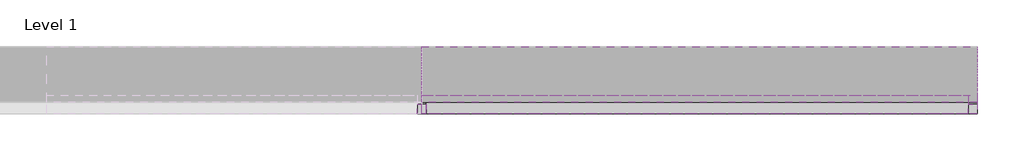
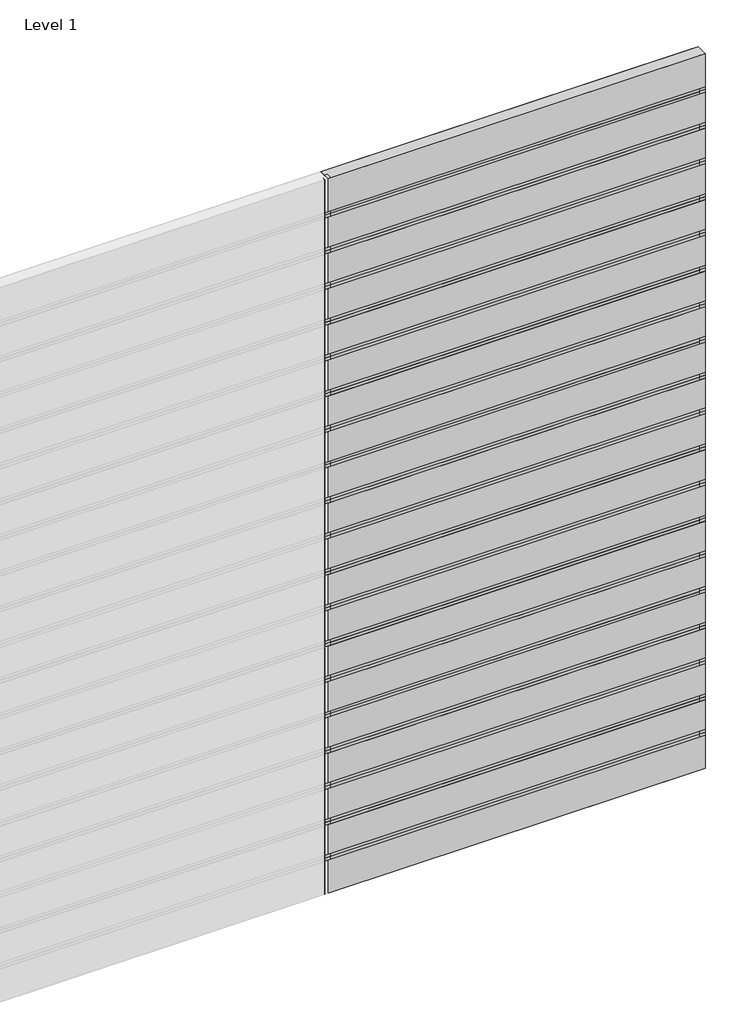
# One storey, part 2 of 2: 49 members, 40 plates.
"""IFC4 building model written with IfcOpenShell, lengths in millimetres."""

from ifc_helpers import new_model, si_unit, origin, place, context, project, spatial, transform, mapped, element, save
from components import rectangular_mullion_489e5dd7, rectangular_mullion_906318ec, rectangular_mullion_d9db7a7c, empty_system_panel_empty_2f02a19b, empty_system_panel_empty_759a0c1d, empty_system_panel_empty_080f249c

model = new_model("IFC4")

# Units and contexts
model_context = context("Model", 3, world=origin())
ifc_project = project(units=[si_unit("LENGTHUNIT", "METRE", prefix="MILLI")], contexts=[model_context])

# Site, building, storey
site = spatial("IfcSite", under=ifc_project)
building = spatial("IfcBuilding", under=site)
storey = spatial("IfcBuildingStorey", under=building, Name="Level 1", Elevation=0.0)

# Members
placement = place(None, origin())
rectangular_mullion_shape = rectangular_mullion_489e5dd7(model_context)
element("IfcMember", 1, ObjectType="Rectangular Mullion : RSen_21_CWM_blade - 300 ellips - 0°_gen_duco projects", at=placement, inside=storey, context=model_context, shape_type="MappedRepresentation", body=[
    mapped(rectangular_mullion_shape, transform((3000.0, 3000.0, 3300.0), x_axis=(0.0, 0.0, 1.0), y_axis=(0.0, 1.0, 0.0), z_axis=(-1.0, 0.0, 0.0))),
])
element("IfcMember", 2, ObjectType="Rectangular Mullion : RSen_21_CWM_blade - 300 ellips - 0°_gen_duco projects", at=placement, inside=storey, context=model_context, shape_type="MappedRepresentation", body=[
    mapped(rectangular_mullion_shape, transform((3000.0, 3000.0, 3600.0), x_axis=(0.0, 0.0, 1.0), y_axis=(0.0, 1.0, 0.0), z_axis=(-1.0, 0.0, 0.0))),
])
element("IfcMember", 3, ObjectType="Rectangular Mullion : RSen_21_CWM_blade - 300 ellips - 0°_gen_duco projects", at=placement, inside=storey, context=model_context, shape_type="MappedRepresentation", body=[
    mapped(rectangular_mullion_shape, transform((3000.0, 3000.0, 3900.0), x_axis=(0.0, 0.0, 1.0), y_axis=(0.0, 1.0, 0.0), z_axis=(-1.0, 0.0, 0.0))),
])
element("IfcMember", 4, ObjectType="Rectangular Mullion : RSen_21_CWM_blade - 300 ellips - 0°_gen_duco projects", at=placement, inside=storey, context=model_context, shape_type="MappedRepresentation", body=[
    mapped(rectangular_mullion_shape, transform((3000.0, 3000.0, 4200.0), x_axis=(0.0, 0.0, 1.0), y_axis=(0.0, 1.0, 0.0), z_axis=(-1.0, 0.0, 0.0))),
])
element("IfcMember", 5, ObjectType="Rectangular Mullion : RSen_21_CWM_blade - 300 ellips - 0°_gen_duco projects", at=placement, inside=storey, context=model_context, shape_type="MappedRepresentation", body=[
    mapped(rectangular_mullion_shape, transform((3000.0, 3000.0, 4500.0), x_axis=(0.0, 0.0, 1.0), y_axis=(0.0, 1.0, 0.0), z_axis=(-1.0, 0.0, 0.0))),
])
element("IfcMember", 6, ObjectType="Rectangular Mullion : RSen_21_CWM_blade - 300 ellips - 0°_gen_duco projects", at=placement, inside=storey, context=model_context, shape_type="MappedRepresentation", body=[
    mapped(rectangular_mullion_shape, transform((3000.0, 3000.0, 4800.0), x_axis=(0.0, 0.0, 1.0), y_axis=(0.0, 1.0, 0.0), z_axis=(-1.0, 0.0, 0.0))),
])
element("IfcMember", 7, ObjectType="Rectangular Mullion : RSen_21_CWM_blade - 300 ellips - 0°_gen_duco projects", at=placement, inside=storey, context=model_context, shape_type="MappedRepresentation", body=[
    mapped(rectangular_mullion_shape, transform((3000.0, 3000.0, 5100.0), x_axis=(0.0, 0.0, 1.0), y_axis=(0.0, 1.0, 0.0), z_axis=(-1.0, 0.0, 0.0))),
])
element("IfcMember", 8, ObjectType="Rectangular Mullion : RSen_21_CWM_blade - 300 ellips - 0°_gen_duco projects", at=placement, inside=storey, context=model_context, shape_type="MappedRepresentation", body=[
    mapped(rectangular_mullion_shape, transform((3000.0, 3000.0, 5400.0), x_axis=(0.0, 0.0, 1.0), y_axis=(0.0, 1.0, 0.0), z_axis=(-1.0, 0.0, 0.0))),
])
element("IfcMember", 9, ObjectType="Rectangular Mullion : RSen_21_CWM_blade - 300 ellips - 0°_gen_duco projects", at=placement, inside=storey, context=model_context, shape_type="MappedRepresentation", body=[
    mapped(rectangular_mullion_shape, transform((3000.0, 3000.0, 5700.0), x_axis=(0.0, 0.0, 1.0), y_axis=(0.0, 1.0, 0.0), z_axis=(-1.0, 0.0, 0.0))),
])
rectangular_mullion_2_shape = rectangular_mullion_906318ec(model_context)
element("IfcMember", 10, ObjectType="Rectangular Mullion : RSen_21_CWM_support profile 50x50_gen_duco projects", at=placement, inside=storey, context=model_context, shape_type="MappedRepresentation", body=[
    mapped(rectangular_mullion_2_shape, transform((3000.0, 3000.0, 0.0), x_axis=(-1.0, 0.0, 0.0), y_axis=(0.0, 1.0, 0.0), z_axis=(0.0, 0.0, -1.0))),
])
element("IfcMember", 11, ObjectType="Rectangular Mullion : RSen_21_CWM_support profile 50x50_gen_duco projects", at=placement, inside=storey, context=model_context, shape_type="MappedRepresentation", body=[
    mapped(rectangular_mullion_2_shape, transform((3000.0, 3000.0, 300.0), x_axis=(-1.0, 0.0, 0.0), y_axis=(0.0, 1.0, 0.0), z_axis=(0.0, 0.0, -1.0))),
])
element("IfcMember", 12, ObjectType="Rectangular Mullion : RSen_21_CWM_support profile 50x50_gen_duco projects", at=placement, inside=storey, context=model_context, shape_type="MappedRepresentation", body=[
    mapped(rectangular_mullion_2_shape, transform((3000.0, 3000.0, 600.0), x_axis=(-1.0, 0.0, 0.0), y_axis=(0.0, 1.0, 0.0), z_axis=(0.0, 0.0, -1.0))),
])
element("IfcMember", 13, ObjectType="Rectangular Mullion : RSen_21_CWM_support profile 50x50_gen_duco projects", at=placement, inside=storey, context=model_context, shape_type="MappedRepresentation", body=[
    mapped(rectangular_mullion_2_shape, transform((3000.0, 3000.0, 900.0), x_axis=(-1.0, 0.0, 0.0), y_axis=(0.0, 1.0, 0.0), z_axis=(0.0, 0.0, -1.0))),
])
element("IfcMember", 14, ObjectType="Rectangular Mullion : RSen_21_CWM_support profile 50x50_gen_duco projects", at=placement, inside=storey, context=model_context, shape_type="MappedRepresentation", body=[
    mapped(rectangular_mullion_2_shape, transform((3000.0, 3000.0, 1200.0), x_axis=(-1.0, 0.0, 0.0), y_axis=(0.0, 1.0, 0.0), z_axis=(0.0, 0.0, -1.0))),
])
element("IfcMember", 15, ObjectType="Rectangular Mullion : RSen_21_CWM_support profile 50x50_gen_duco projects", at=placement, inside=storey, context=model_context, shape_type="MappedRepresentation", body=[
    mapped(rectangular_mullion_2_shape, transform((3000.0, 3000.0, 1500.0), x_axis=(-1.0, 0.0, 0.0), y_axis=(0.0, 1.0, 0.0), z_axis=(0.0, 0.0, -1.0))),
])
element("IfcMember", 16, ObjectType="Rectangular Mullion : RSen_21_CWM_support profile 50x50_gen_duco projects", at=placement, inside=storey, context=model_context, shape_type="MappedRepresentation", body=[
    mapped(rectangular_mullion_2_shape, transform((3000.0, 3000.0, 1800.0), x_axis=(-1.0, 0.0, 0.0), y_axis=(0.0, 1.0, 0.0), z_axis=(0.0, 0.0, -1.0))),
])
element("IfcMember", 17, ObjectType="Rectangular Mullion : RSen_21_CWM_support profile 50x50_gen_duco projects", at=placement, inside=storey, context=model_context, shape_type="MappedRepresentation", body=[
    mapped(rectangular_mullion_2_shape, transform((3000.0, 3000.0, 2100.0), x_axis=(-1.0, 0.0, 0.0), y_axis=(0.0, 1.0, 0.0), z_axis=(0.0, 0.0, -1.0))),
])
element("IfcMember", 18, ObjectType="Rectangular Mullion : RSen_21_CWM_support profile 50x50_gen_duco projects", at=placement, inside=storey, context=model_context, shape_type="MappedRepresentation", body=[
    mapped(rectangular_mullion_2_shape, transform((3000.0, 3000.0, 2400.0), x_axis=(-1.0, 0.0, 0.0), y_axis=(0.0, 1.0, 0.0), z_axis=(0.0, 0.0, -1.0))),
])
element("IfcMember", 19, ObjectType="Rectangular Mullion : RSen_21_CWM_support profile 50x50_gen_duco projects", at=placement, inside=storey, context=model_context, shape_type="MappedRepresentation", body=[
    mapped(rectangular_mullion_2_shape, transform((3000.0, 3000.0, 2700.0), x_axis=(-1.0, 0.0, 0.0), y_axis=(0.0, 1.0, 0.0), z_axis=(0.0, 0.0, -1.0))),
])
element("IfcMember", 20, ObjectType="Rectangular Mullion : RSen_21_CWM_support profile 50x50_gen_duco projects", at=placement, inside=storey, context=model_context, shape_type="MappedRepresentation", body=[
    mapped(rectangular_mullion_2_shape, transform((3000.0, 3000.0, 3000.0), x_axis=(-1.0, 0.0, 0.0), y_axis=(0.0, 1.0, 0.0), z_axis=(0.0, 0.0, -1.0))),
])
element("IfcMember", 21, ObjectType="Rectangular Mullion : RSen_21_CWM_support profile 50x50_gen_duco projects", at=placement, inside=storey, context=model_context, shape_type="MappedRepresentation", body=[
    mapped(rectangular_mullion_2_shape, transform((3000.0, 3000.0, 3300.0), x_axis=(-1.0, 0.0, 0.0), y_axis=(0.0, 1.0, 0.0), z_axis=(0.0, 0.0, -1.0))),
])
element("IfcMember", 22, ObjectType="Rectangular Mullion : RSen_21_CWM_support profile 50x50_gen_duco projects", at=placement, inside=storey, context=model_context, shape_type="MappedRepresentation", body=[
    mapped(rectangular_mullion_2_shape, transform((3000.0, 3000.0, 3600.0), x_axis=(-1.0, 0.0, 0.0), y_axis=(0.0, 1.0, 0.0), z_axis=(0.0, 0.0, -1.0))),
])
element("IfcMember", 23, ObjectType="Rectangular Mullion : RSen_21_CWM_support profile 50x50_gen_duco projects", at=placement, inside=storey, context=model_context, shape_type="MappedRepresentation", body=[
    mapped(rectangular_mullion_2_shape, transform((3000.0, 3000.0, 3900.0), x_axis=(-1.0, 0.0, 0.0), y_axis=(0.0, 1.0, 0.0), z_axis=(0.0, 0.0, -1.0))),
])
element("IfcMember", 24, ObjectType="Rectangular Mullion : RSen_21_CWM_support profile 50x50_gen_duco projects", at=placement, inside=storey, context=model_context, shape_type="MappedRepresentation", body=[
    mapped(rectangular_mullion_2_shape, transform((3000.0, 3000.0, 4200.0), x_axis=(-1.0, 0.0, 0.0), y_axis=(0.0, 1.0, 0.0), z_axis=(0.0, 0.0, -1.0))),
])
element("IfcMember", 25, ObjectType="Rectangular Mullion : RSen_21_CWM_support profile 50x50_gen_duco projects", at=placement, inside=storey, context=model_context, shape_type="MappedRepresentation", body=[
    mapped(rectangular_mullion_2_shape, transform((3000.0, 3000.0, 4500.0), x_axis=(-1.0, 0.0, 0.0), y_axis=(0.0, 1.0, 0.0), z_axis=(0.0, 0.0, -1.0))),
])
element("IfcMember", 26, ObjectType="Rectangular Mullion : RSen_21_CWM_support profile 50x50_gen_duco projects", at=placement, inside=storey, context=model_context, shape_type="MappedRepresentation", body=[
    mapped(rectangular_mullion_2_shape, transform((3000.0, 3000.0, 4800.0), x_axis=(-1.0, 0.0, 0.0), y_axis=(0.0, 1.0, 0.0), z_axis=(0.0, 0.0, -1.0))),
])
element("IfcMember", 27, ObjectType="Rectangular Mullion : RSen_21_CWM_support profile 50x50_gen_duco projects", at=placement, inside=storey, context=model_context, shape_type="MappedRepresentation", body=[
    mapped(rectangular_mullion_2_shape, transform((3000.0, 3000.0, 5100.0), x_axis=(-1.0, 0.0, 0.0), y_axis=(0.0, 1.0, 0.0), z_axis=(0.0, 0.0, -1.0))),
])
element("IfcMember", 28, ObjectType="Rectangular Mullion : RSen_21_CWM_support profile 50x50_gen_duco projects", at=placement, inside=storey, context=model_context, shape_type="MappedRepresentation", body=[
    mapped(rectangular_mullion_2_shape, transform((3000.0, 3000.0, 5400.0), x_axis=(-1.0, 0.0, 0.0), y_axis=(0.0, 1.0, 0.0), z_axis=(0.0, 0.0, -1.0))),
])
element("IfcMember", 29, ObjectType="Rectangular Mullion : RSen_21_CWM_support profile 50x50_gen_duco projects", at=placement, inside=storey, context=model_context, shape_type="MappedRepresentation", body=[
    mapped(rectangular_mullion_2_shape, transform((3000.0, 3000.0, 5700.0), x_axis=(-1.0, 0.0, 0.0), y_axis=(0.0, 1.0, 0.0), z_axis=(0.0, 0.0, -1.0))),
])
rectangular_mullion_3_shape = rectangular_mullion_d9db7a7c(model_context)
element("IfcMember", 30, ObjectType="Rectangular Mullion : RSen_21_CWM_support profile 50x50 - right_gen_duco projects", at=placement, inside=storey, context=model_context, shape_type="MappedRepresentation", body=[
    mapped(rectangular_mullion_3_shape, transform((6000.0, 3000.0, 6000.0), x_axis=(1.0, 0.0, 0.0), y_axis=(0.0, 1.0, 0.0), z_axis=(0.0, 0.0, 1.0))),
])
element("IfcMember", 31, ObjectType="Rectangular Mullion : RSen_21_CWM_support profile 50x50 - right_gen_duco projects", at=placement, inside=storey, context=model_context, shape_type="MappedRepresentation", body=[
    mapped(rectangular_mullion_3_shape, transform((6000.0, 3000.0, 300.0), x_axis=(1.0, 0.0, 0.0), y_axis=(0.0, 1.0, 0.0), z_axis=(0.0, 0.0, 1.0))),
])
element("IfcMember", 32, ObjectType="Rectangular Mullion : RSen_21_CWM_support profile 50x50 - right_gen_duco projects", at=placement, inside=storey, context=model_context, shape_type="MappedRepresentation", body=[
    mapped(rectangular_mullion_3_shape, transform((6000.0, 3000.0, 600.0), x_axis=(1.0, 0.0, 0.0), y_axis=(0.0, 1.0, 0.0), z_axis=(0.0, 0.0, 1.0))),
])
element("IfcMember", 33, ObjectType="Rectangular Mullion : RSen_21_CWM_support profile 50x50 - right_gen_duco projects", at=placement, inside=storey, context=model_context, shape_type="MappedRepresentation", body=[
    mapped(rectangular_mullion_3_shape, transform((6000.0, 3000.0, 900.0), x_axis=(1.0, 0.0, 0.0), y_axis=(0.0, 1.0, 0.0), z_axis=(0.0, 0.0, 1.0))),
])
element("IfcMember", 34, ObjectType="Rectangular Mullion : RSen_21_CWM_support profile 50x50 - right_gen_duco projects", at=placement, inside=storey, context=model_context, shape_type="MappedRepresentation", body=[
    mapped(rectangular_mullion_3_shape, transform((6000.0, 3000.0, 1200.0), x_axis=(1.0, 0.0, 0.0), y_axis=(0.0, 1.0, 0.0), z_axis=(0.0, 0.0, 1.0))),
])
element("IfcMember", 35, ObjectType="Rectangular Mullion : RSen_21_CWM_support profile 50x50 - right_gen_duco projects", at=placement, inside=storey, context=model_context, shape_type="MappedRepresentation", body=[
    mapped(rectangular_mullion_3_shape, transform((6000.0, 3000.0, 1500.0), x_axis=(1.0, 0.0, 0.0), y_axis=(0.0, 1.0, 0.0), z_axis=(0.0, 0.0, 1.0))),
])
element("IfcMember", 36, ObjectType="Rectangular Mullion : RSen_21_CWM_support profile 50x50 - right_gen_duco projects", at=placement, inside=storey, context=model_context, shape_type="MappedRepresentation", body=[
    mapped(rectangular_mullion_3_shape, transform((6000.0, 3000.0, 1800.0), x_axis=(1.0, 0.0, 0.0), y_axis=(0.0, 1.0, 0.0), z_axis=(0.0, 0.0, 1.0))),
])
element("IfcMember", 37, ObjectType="Rectangular Mullion : RSen_21_CWM_support profile 50x50 - right_gen_duco projects", at=placement, inside=storey, context=model_context, shape_type="MappedRepresentation", body=[
    mapped(rectangular_mullion_3_shape, transform((6000.0, 3000.0, 2100.0), x_axis=(1.0, 0.0, 0.0), y_axis=(0.0, 1.0, 0.0), z_axis=(0.0, 0.0, 1.0))),
])
element("IfcMember", 38, ObjectType="Rectangular Mullion : RSen_21_CWM_support profile 50x50 - right_gen_duco projects", at=placement, inside=storey, context=model_context, shape_type="MappedRepresentation", body=[
    mapped(rectangular_mullion_3_shape, transform((6000.0, 3000.0, 2400.0), x_axis=(1.0, 0.0, 0.0), y_axis=(0.0, 1.0, 0.0), z_axis=(0.0, 0.0, 1.0))),
])
element("IfcMember", 39, ObjectType="Rectangular Mullion : RSen_21_CWM_support profile 50x50 - right_gen_duco projects", at=placement, inside=storey, context=model_context, shape_type="MappedRepresentation", body=[
    mapped(rectangular_mullion_3_shape, transform((6000.0, 3000.0, 2700.0), x_axis=(1.0, 0.0, 0.0), y_axis=(0.0, 1.0, 0.0), z_axis=(0.0, 0.0, 1.0))),
])
element("IfcMember", 40, ObjectType="Rectangular Mullion : RSen_21_CWM_support profile 50x50 - right_gen_duco projects", at=placement, inside=storey, context=model_context, shape_type="MappedRepresentation", body=[
    mapped(rectangular_mullion_3_shape, transform((6000.0, 3000.0, 3000.0), x_axis=(1.0, 0.0, 0.0), y_axis=(0.0, 1.0, 0.0), z_axis=(0.0, 0.0, 1.0))),
])
element("IfcMember", 41, ObjectType="Rectangular Mullion : RSen_21_CWM_support profile 50x50 - right_gen_duco projects", at=placement, inside=storey, context=model_context, shape_type="MappedRepresentation", body=[
    mapped(rectangular_mullion_3_shape, transform((6000.0, 3000.0, 3300.0), x_axis=(1.0, 0.0, 0.0), y_axis=(0.0, 1.0, 0.0), z_axis=(0.0, 0.0, 1.0))),
])
element("IfcMember", 42, ObjectType="Rectangular Mullion : RSen_21_CWM_support profile 50x50 - right_gen_duco projects", at=placement, inside=storey, context=model_context, shape_type="MappedRepresentation", body=[
    mapped(rectangular_mullion_3_shape, transform((6000.0, 3000.0, 3600.0), x_axis=(1.0, 0.0, 0.0), y_axis=(0.0, 1.0, 0.0), z_axis=(0.0, 0.0, 1.0))),
])
element("IfcMember", 43, ObjectType="Rectangular Mullion : RSen_21_CWM_support profile 50x50 - right_gen_duco projects", at=placement, inside=storey, context=model_context, shape_type="MappedRepresentation", body=[
    mapped(rectangular_mullion_3_shape, transform((6000.0, 3000.0, 3900.0), x_axis=(1.0, 0.0, 0.0), y_axis=(0.0, 1.0, 0.0), z_axis=(0.0, 0.0, 1.0))),
])
element("IfcMember", 44, ObjectType="Rectangular Mullion : RSen_21_CWM_support profile 50x50 - right_gen_duco projects", at=placement, inside=storey, context=model_context, shape_type="MappedRepresentation", body=[
    mapped(rectangular_mullion_3_shape, transform((6000.0, 3000.0, 4200.0), x_axis=(1.0, 0.0, 0.0), y_axis=(0.0, 1.0, 0.0), z_axis=(0.0, 0.0, 1.0))),
])
element("IfcMember", 45, ObjectType="Rectangular Mullion : RSen_21_CWM_support profile 50x50 - right_gen_duco projects", at=placement, inside=storey, context=model_context, shape_type="MappedRepresentation", body=[
    mapped(rectangular_mullion_3_shape, transform((6000.0, 3000.0, 4500.0), x_axis=(1.0, 0.0, 0.0), y_axis=(0.0, 1.0, 0.0), z_axis=(0.0, 0.0, 1.0))),
])
element("IfcMember", 46, ObjectType="Rectangular Mullion : RSen_21_CWM_support profile 50x50 - right_gen_duco projects", at=placement, inside=storey, context=model_context, shape_type="MappedRepresentation", body=[
    mapped(rectangular_mullion_3_shape, transform((6000.0, 3000.0, 4800.0), x_axis=(1.0, 0.0, 0.0), y_axis=(0.0, 1.0, 0.0), z_axis=(0.0, 0.0, 1.0))),
])
element("IfcMember", 47, ObjectType="Rectangular Mullion : RSen_21_CWM_support profile 50x50 - right_gen_duco projects", at=placement, inside=storey, context=model_context, shape_type="MappedRepresentation", body=[
    mapped(rectangular_mullion_3_shape, transform((6000.0, 3000.0, 5100.0), x_axis=(1.0, 0.0, 0.0), y_axis=(0.0, 1.0, 0.0), z_axis=(0.0, 0.0, 1.0))),
])
element("IfcMember", 48, ObjectType="Rectangular Mullion : RSen_21_CWM_support profile 50x50 - right_gen_duco projects", at=placement, inside=storey, context=model_context, shape_type="MappedRepresentation", body=[
    mapped(rectangular_mullion_3_shape, transform((6000.0, 3000.0, 5400.0), x_axis=(1.0, 0.0, 0.0), y_axis=(0.0, 1.0, 0.0), z_axis=(0.0, 0.0, 1.0))),
])
element("IfcMember", 49, ObjectType="Rectangular Mullion : RSen_21_CWM_support profile 50x50 - right_gen_duco projects", at=placement, inside=storey, context=model_context, shape_type="MappedRepresentation", body=[
    mapped(rectangular_mullion_3_shape, transform((6000.0, 3000.0, 5700.0), x_axis=(1.0, 0.0, 0.0), y_axis=(0.0, 1.0, 0.0), z_axis=(0.0, 0.0, 1.0))),
])

# Plates
empty_system_panel_empty_shape = empty_system_panel_empty_2f02a19b(model_context)
element("IfcPlate", 50, ObjectType="Empty System Panel : Empty", at=placement, inside=storey, context=model_context, shape_type="MappedRepresentation", body=[
    mapped(empty_system_panel_empty_shape, transform((4500.0, 3000.0, 0.0), x_axis=(-1.0, 0.0, 0.0), y_axis=(0.0, -1.0, 0.0), z_axis=(0.0, 0.0, 1.0))),
])
element("IfcPlate", 51, ObjectType="Empty System Panel : Empty", at=placement, inside=storey, context=model_context, shape_type="MappedRepresentation", body=[
    mapped(empty_system_panel_empty_shape, transform((4500.0, 3000.0, 5725.0), x_axis=(-1.0, 0.0, 0.0), y_axis=(0.0, -1.0, 0.0), z_axis=(0.0, 0.0, 1.0))),
])
empty_system_panel_empty_2_shape = empty_system_panel_empty_759a0c1d(model_context)
element("IfcPlate", 52, ObjectType="Empty System Panel : Empty", at=placement, inside=storey, context=model_context, shape_type="MappedRepresentation", body=[
    mapped(empty_system_panel_empty_2_shape, transform((4500.0, 3000.0, 325.0), x_axis=(-1.0, 0.0, 0.0), y_axis=(0.0, -1.0, 0.0), z_axis=(0.0, 0.0, 1.0))),
])
element("IfcPlate", 53, ObjectType="Empty System Panel : Empty", at=placement, inside=storey, context=model_context, shape_type="MappedRepresentation", body=[
    mapped(empty_system_panel_empty_2_shape, transform((4500.0, 3000.0, 625.0), x_axis=(-1.0, 0.0, 0.0), y_axis=(0.0, -1.0, 0.0), z_axis=(0.0, 0.0, 1.0))),
])
element("IfcPlate", 54, ObjectType="Empty System Panel : Empty", at=placement, inside=storey, context=model_context, shape_type="MappedRepresentation", body=[
    mapped(empty_system_panel_empty_2_shape, transform((4500.0, 3000.0, 925.0), x_axis=(-1.0, 0.0, 0.0), y_axis=(0.0, -1.0, 0.0), z_axis=(0.0, 0.0, 1.0))),
])
element("IfcPlate", 55, ObjectType="Empty System Panel : Empty", at=placement, inside=storey, context=model_context, shape_type="MappedRepresentation", body=[
    mapped(empty_system_panel_empty_2_shape, transform((4500.0, 3000.0, 1225.0), x_axis=(-1.0, 0.0, 0.0), y_axis=(0.0, -1.0, 0.0), z_axis=(0.0, 0.0, 1.0))),
])
element("IfcPlate", 56, ObjectType="Empty System Panel : Empty", at=placement, inside=storey, context=model_context, shape_type="MappedRepresentation", body=[
    mapped(empty_system_panel_empty_2_shape, transform((4500.0, 3000.0, 1525.0), x_axis=(-1.0, 0.0, 0.0), y_axis=(0.0, -1.0, 0.0), z_axis=(0.0, 0.0, 1.0))),
])
element("IfcPlate", 57, ObjectType="Empty System Panel : Empty", at=placement, inside=storey, context=model_context, shape_type="MappedRepresentation", body=[
    mapped(empty_system_panel_empty_2_shape, transform((4500.0, 3000.0, 1825.0), x_axis=(-1.0, 0.0, 0.0), y_axis=(0.0, -1.0, 0.0), z_axis=(0.0, 0.0, 1.0))),
])
element("IfcPlate", 58, ObjectType="Empty System Panel : Empty", at=placement, inside=storey, context=model_context, shape_type="MappedRepresentation", body=[
    mapped(empty_system_panel_empty_2_shape, transform((4500.0, 3000.0, 2125.0), x_axis=(-1.0, 0.0, 0.0), y_axis=(0.0, -1.0, 0.0), z_axis=(0.0, 0.0, 1.0))),
])
element("IfcPlate", 59, ObjectType="Empty System Panel : Empty", at=placement, inside=storey, context=model_context, shape_type="MappedRepresentation", body=[
    mapped(empty_system_panel_empty_2_shape, transform((4500.0, 3000.0, 2425.0), x_axis=(-1.0, 0.0, 0.0), y_axis=(0.0, -1.0, 0.0), z_axis=(0.0, 0.0, 1.0))),
])
element("IfcPlate", 60, ObjectType="Empty System Panel : Empty", at=placement, inside=storey, context=model_context, shape_type="MappedRepresentation", body=[
    mapped(empty_system_panel_empty_2_shape, transform((4500.0, 3000.0, 2725.0), x_axis=(-1.0, 0.0, 0.0), y_axis=(0.0, -1.0, 0.0), z_axis=(0.0, 0.0, 1.0))),
])
element("IfcPlate", 61, ObjectType="Empty System Panel : Empty", at=placement, inside=storey, context=model_context, shape_type="MappedRepresentation", body=[
    mapped(empty_system_panel_empty_2_shape, transform((4500.0, 3000.0, 3025.0), x_axis=(-1.0, 0.0, 0.0), y_axis=(0.0, -1.0, 0.0), z_axis=(0.0, 0.0, 1.0))),
])
element("IfcPlate", 62, ObjectType="Empty System Panel : Empty", at=placement, inside=storey, context=model_context, shape_type="MappedRepresentation", body=[
    mapped(empty_system_panel_empty_2_shape, transform((4500.0, 3000.0, 3325.0), x_axis=(-1.0, 0.0, 0.0), y_axis=(0.0, -1.0, 0.0), z_axis=(0.0, 0.0, 1.0))),
])
element("IfcPlate", 63, ObjectType="Empty System Panel : Empty", at=placement, inside=storey, context=model_context, shape_type="MappedRepresentation", body=[
    mapped(empty_system_panel_empty_2_shape, transform((4500.0, 3000.0, 3625.0), x_axis=(-1.0, 0.0, 0.0), y_axis=(0.0, -1.0, 0.0), z_axis=(0.0, 0.0, 1.0))),
])
element("IfcPlate", 64, ObjectType="Empty System Panel : Empty", at=placement, inside=storey, context=model_context, shape_type="MappedRepresentation", body=[
    mapped(empty_system_panel_empty_2_shape, transform((4500.0, 3000.0, 3925.0), x_axis=(-1.0, 0.0, 0.0), y_axis=(0.0, -1.0, 0.0), z_axis=(0.0, 0.0, 1.0))),
])
element("IfcPlate", 65, ObjectType="Empty System Panel : Empty", at=placement, inside=storey, context=model_context, shape_type="MappedRepresentation", body=[
    mapped(empty_system_panel_empty_2_shape, transform((4500.0, 3000.0, 4225.0), x_axis=(-1.0, 0.0, 0.0), y_axis=(0.0, -1.0, 0.0), z_axis=(0.0, 0.0, 1.0))),
])
element("IfcPlate", 66, ObjectType="Empty System Panel : Empty", at=placement, inside=storey, context=model_context, shape_type="MappedRepresentation", body=[
    mapped(empty_system_panel_empty_2_shape, transform((4500.0, 3000.0, 4525.0), x_axis=(-1.0, 0.0, 0.0), y_axis=(0.0, -1.0, 0.0), z_axis=(0.0, 0.0, 1.0))),
])
element("IfcPlate", 67, ObjectType="Empty System Panel : Empty", at=placement, inside=storey, context=model_context, shape_type="MappedRepresentation", body=[
    mapped(empty_system_panel_empty_2_shape, transform((4500.0, 3000.0, 4825.0), x_axis=(-1.0, 0.0, 0.0), y_axis=(0.0, -1.0, 0.0), z_axis=(0.0, 0.0, 1.0))),
])
element("IfcPlate", 68, ObjectType="Empty System Panel : Empty", at=placement, inside=storey, context=model_context, shape_type="MappedRepresentation", body=[
    mapped(empty_system_panel_empty_2_shape, transform((4500.0, 3000.0, 5125.0), x_axis=(-1.0, 0.0, 0.0), y_axis=(0.0, -1.0, 0.0), z_axis=(0.0, 0.0, 1.0))),
])
element("IfcPlate", 69, ObjectType="Empty System Panel : Empty", at=placement, inside=storey, context=model_context, shape_type="MappedRepresentation", body=[
    mapped(empty_system_panel_empty_2_shape, transform((4500.0, 3000.0, 5425.0), x_axis=(-1.0, 0.0, 0.0), y_axis=(0.0, -1.0, 0.0), z_axis=(0.0, 0.0, 1.0))),
])
empty_system_panel_empty_3_shape = empty_system_panel_empty_080f249c(model_context)
element("IfcPlate", 70, ObjectType="Empty System Panel : Empty", at=placement, inside=storey, context=model_context, shape_type="MappedRepresentation", body=[
    mapped(empty_system_panel_empty_3_shape, transform((4487.5, 3000.0, 0.0), x_axis=(-1.0, 0.0, 0.0), y_axis=(0.0, -1.0, 0.0), z_axis=(0.0, 0.0, 1.0))),
])
element("IfcPlate", 71, ObjectType="Empty System Panel : Empty", at=placement, inside=storey, context=model_context, shape_type="MappedRepresentation", body=[
    mapped(empty_system_panel_empty_3_shape, transform((4487.5, 3000.0, 300.0), x_axis=(-1.0, 0.0, 0.0), y_axis=(0.0, -1.0, 0.0), z_axis=(0.0, 0.0, 1.0))),
])
element("IfcPlate", 72, ObjectType="Empty System Panel : Empty", at=placement, inside=storey, context=model_context, shape_type="MappedRepresentation", body=[
    mapped(empty_system_panel_empty_3_shape, transform((4487.5, 3000.0, 600.0), x_axis=(-1.0, 0.0, 0.0), y_axis=(0.0, -1.0, 0.0), z_axis=(0.0, 0.0, 1.0))),
])
element("IfcPlate", 73, ObjectType="Empty System Panel : Empty", at=placement, inside=storey, context=model_context, shape_type="MappedRepresentation", body=[
    mapped(empty_system_panel_empty_3_shape, transform((4487.5, 3000.0, 900.0), x_axis=(-1.0, 0.0, 0.0), y_axis=(0.0, -1.0, 0.0), z_axis=(0.0, 0.0, 1.0))),
])
element("IfcPlate", 74, ObjectType="Empty System Panel : Empty", at=placement, inside=storey, context=model_context, shape_type="MappedRepresentation", body=[
    mapped(empty_system_panel_empty_3_shape, transform((4487.5, 3000.0, 1200.0), x_axis=(-1.0, 0.0, 0.0), y_axis=(0.0, -1.0, 0.0), z_axis=(0.0, 0.0, 1.0))),
])
element("IfcPlate", 75, ObjectType="Empty System Panel : Empty", at=placement, inside=storey, context=model_context, shape_type="MappedRepresentation", body=[
    mapped(empty_system_panel_empty_3_shape, transform((4487.5, 3000.0, 1500.0), x_axis=(-1.0, 0.0, 0.0), y_axis=(0.0, -1.0, 0.0), z_axis=(0.0, 0.0, 1.0))),
])
element("IfcPlate", 76, ObjectType="Empty System Panel : Empty", at=placement, inside=storey, context=model_context, shape_type="MappedRepresentation", body=[
    mapped(empty_system_panel_empty_3_shape, transform((4487.5, 3000.0, 1800.0), x_axis=(-1.0, 0.0, 0.0), y_axis=(0.0, -1.0, 0.0), z_axis=(0.0, 0.0, 1.0))),
])
element("IfcPlate", 77, ObjectType="Empty System Panel : Empty", at=placement, inside=storey, context=model_context, shape_type="MappedRepresentation", body=[
    mapped(empty_system_panel_empty_3_shape, transform((4487.5, 3000.0, 2100.0), x_axis=(-1.0, 0.0, 0.0), y_axis=(0.0, -1.0, 0.0), z_axis=(0.0, 0.0, 1.0))),
])
element("IfcPlate", 78, ObjectType="Empty System Panel : Empty", at=placement, inside=storey, context=model_context, shape_type="MappedRepresentation", body=[
    mapped(empty_system_panel_empty_3_shape, transform((4487.5, 3000.0, 2400.0), x_axis=(-1.0, 0.0, 0.0), y_axis=(0.0, -1.0, 0.0), z_axis=(0.0, 0.0, 1.0))),
])
element("IfcPlate", 79, ObjectType="Empty System Panel : Empty", at=placement, inside=storey, context=model_context, shape_type="MappedRepresentation", body=[
    mapped(empty_system_panel_empty_3_shape, transform((4487.5, 3000.0, 2700.0), x_axis=(-1.0, 0.0, 0.0), y_axis=(0.0, -1.0, 0.0), z_axis=(0.0, 0.0, 1.0))),
])
element("IfcPlate", 80, ObjectType="Empty System Panel : Empty", at=placement, inside=storey, context=model_context, shape_type="MappedRepresentation", body=[
    mapped(empty_system_panel_empty_3_shape, transform((4487.5, 3000.0, 3000.0), x_axis=(-1.0, 0.0, 0.0), y_axis=(0.0, -1.0, 0.0), z_axis=(0.0, 0.0, 1.0))),
])
element("IfcPlate", 81, ObjectType="Empty System Panel : Empty", at=placement, inside=storey, context=model_context, shape_type="MappedRepresentation", body=[
    mapped(empty_system_panel_empty_3_shape, transform((4487.5, 3000.0, 3300.0), x_axis=(-1.0, 0.0, 0.0), y_axis=(0.0, -1.0, 0.0), z_axis=(0.0, 0.0, 1.0))),
])
element("IfcPlate", 82, ObjectType="Empty System Panel : Empty", at=placement, inside=storey, context=model_context, shape_type="MappedRepresentation", body=[
    mapped(empty_system_panel_empty_3_shape, transform((4487.5, 3000.0, 3600.0), x_axis=(-1.0, 0.0, 0.0), y_axis=(0.0, -1.0, 0.0), z_axis=(0.0, 0.0, 1.0))),
])
element("IfcPlate", 83, ObjectType="Empty System Panel : Empty", at=placement, inside=storey, context=model_context, shape_type="MappedRepresentation", body=[
    mapped(empty_system_panel_empty_3_shape, transform((4487.5, 3000.0, 3900.0), x_axis=(-1.0, 0.0, 0.0), y_axis=(0.0, -1.0, 0.0), z_axis=(0.0, 0.0, 1.0))),
])
element("IfcPlate", 84, ObjectType="Empty System Panel : Empty", at=placement, inside=storey, context=model_context, shape_type="MappedRepresentation", body=[
    mapped(empty_system_panel_empty_3_shape, transform((4487.5, 3000.0, 4200.0), x_axis=(-1.0, 0.0, 0.0), y_axis=(0.0, -1.0, 0.0), z_axis=(0.0, 0.0, 1.0))),
])
element("IfcPlate", 85, ObjectType="Empty System Panel : Empty", at=placement, inside=storey, context=model_context, shape_type="MappedRepresentation", body=[
    mapped(empty_system_panel_empty_3_shape, transform((4487.5, 3000.0, 4500.0), x_axis=(-1.0, 0.0, 0.0), y_axis=(0.0, -1.0, 0.0), z_axis=(0.0, 0.0, 1.0))),
])
element("IfcPlate", 86, ObjectType="Empty System Panel : Empty", at=placement, inside=storey, context=model_context, shape_type="MappedRepresentation", body=[
    mapped(empty_system_panel_empty_3_shape, transform((4487.5, 3000.0, 4800.0), x_axis=(-1.0, 0.0, 0.0), y_axis=(0.0, -1.0, 0.0), z_axis=(0.0, 0.0, 1.0))),
])
element("IfcPlate", 87, ObjectType="Empty System Panel : Empty", at=placement, inside=storey, context=model_context, shape_type="MappedRepresentation", body=[
    mapped(empty_system_panel_empty_3_shape, transform((4487.5, 3000.0, 5100.0), x_axis=(-1.0, 0.0, 0.0), y_axis=(0.0, -1.0, 0.0), z_axis=(0.0, 0.0, 1.0))),
])
element("IfcPlate", 88, ObjectType="Empty System Panel : Empty", at=placement, inside=storey, context=model_context, shape_type="MappedRepresentation", body=[
    mapped(empty_system_panel_empty_3_shape, transform((4487.5, 3000.0, 5400.0), x_axis=(-1.0, 0.0, 0.0), y_axis=(0.0, -1.0, 0.0), z_axis=(0.0, 0.0, 1.0))),
])
element("IfcPlate", 89, ObjectType="Empty System Panel : Empty", at=placement, inside=storey, context=model_context, shape_type="MappedRepresentation", body=[
    mapped(empty_system_panel_empty_3_shape, transform((4487.5, 3000.0, 5700.0), x_axis=(-1.0, 0.0, 0.0), y_axis=(0.0, -1.0, 0.0), z_axis=(0.0, 0.0, 1.0))),
])

save(model, "model.ifc")
